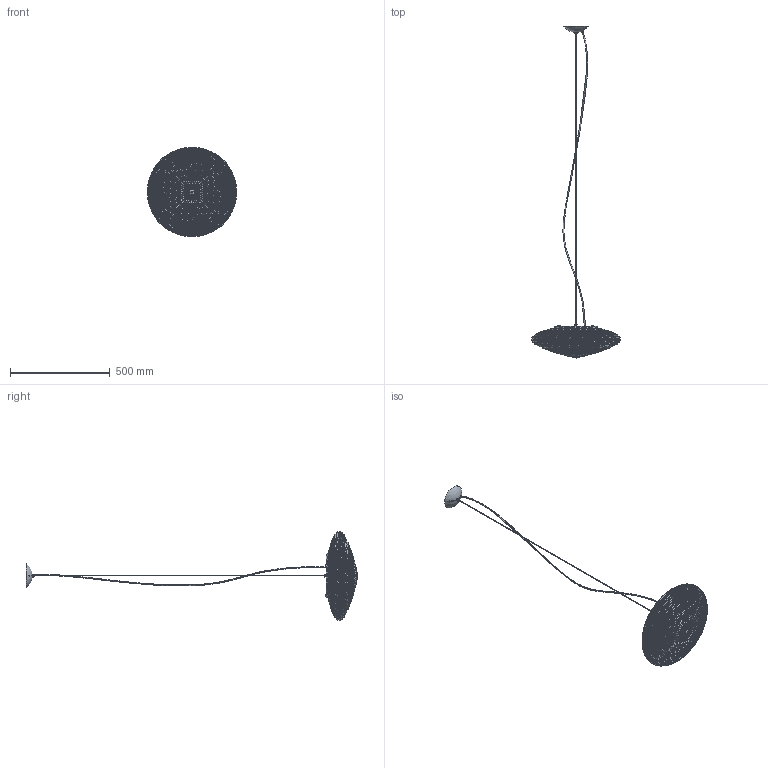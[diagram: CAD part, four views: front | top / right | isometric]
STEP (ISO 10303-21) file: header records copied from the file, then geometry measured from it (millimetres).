
FILE_DESCRIPTION (( 'STEP AP203' ), '1' );
FILE_NAME ('SPIRISP 45 -.STEP', '2021-04-02T08:53:37', ( '' ), ( '' ), 'SwSTEP 2.0', 'SolidWorks 2020', '' );
FILE_SCHEMA (( 'CONFIG_CONTROL_DESIGN' ));
Length unit declared in the file: millimetre
Products named in the file (31): CP5552.05.16.D; TSPEI 4X12_M4x8; TSPEI 4X8_M4x8; CMPIAPL16BLAV; E27; T.C.IMP. A CROCE 4x8; PASSACAVO 5101; CMNIPELF2NI; CMSCATPL16BGR; CMRACCOCILD60GR; Parte2^SPSPIRIT45.rev1; CAVO ACCIAIO L.1500; CMBOCFILSP530GR; CP5300.10.2.00; MSP16BIGNV_x render 2; CMVITPL16BGR; Canna filettata 30; SPIRISP  45    -; VPLSPIRITxx; STAFFA; OCCHIELLO DI TERRA x M4; ROLENTED1; CMPIAPL16BGR; BLOCCACAVO 5462; CMLAMAPL16BGR; PTL PLASTICO STAFFETTA; PL16BIG; CMCOPESTSP215XX; NIPPLE 5016; ROSONE LENTE CON FORO; CMBLOCNOUR5GR
Assembly tree (44 placements, depth 5):
  SPIRISP  45    -
    VPLSPIRITxx
    CAVO ACCIAIO L.1500
    ROLENTED1
      ROSONE LENTE CON FORO
      STAFFA
      NIPPLE 5016
      BLOCCACAVO 5462
      OCCHIELLO DI TERRA x M4  x2
      T.C.IMP. A CROCE 4x8
      Canna filettata 30
      CMNIPELF2NI
      CMBLOCNOUR5GR
    Parte2^SPSPIRIT45.rev1
    MSP16BIGNV_x render 2
      PL16BIG
        CMSCATPL16BGR
        CMPIAPL16BLAV
          CMPIAPL16BGR
        CMLAMAPL16BGR  x3
        CMVITPL16BGR
        PTL PLASTICO STAFFETTA  x2
        CP5552.05.16.D  x3
        E27  x2
      CMCOPESTSP215XX
      CMRACCOCILD60GR  x2
      CP5300.10.2.00
      CMNIPELF2NI
      TSPEI 4X8_M4x8  x3
      CMBOCFILSP530GR  x3
      TSPEI 4X12_M4x8  x2
      PASSACAVO 5101
Bounding box: 449.27 x 1664.33 x 449.27 mm (x, y, z)
Volume: 2150931.6 mm3; surface area: 1133878.4 mm2
Topology: 44 solids, 44 shells, 2788 faces, 6322 edges, 3649 vertices
Faces by surface type: torus 1527, cylinder 754, plane 383, cone 90, sphere 24, bspline 10
Entity records: 69525 total; most frequent: DIRECTION 13586, CARTESIAN_POINT 12214, ORIENTED_EDGE 10136, AXIS2_PLACEMENT_3D 6310, EDGE_CURVE 5068, CIRCLE 3952, VERTEX_POINT 2842, EDGE_LOOP 2498
